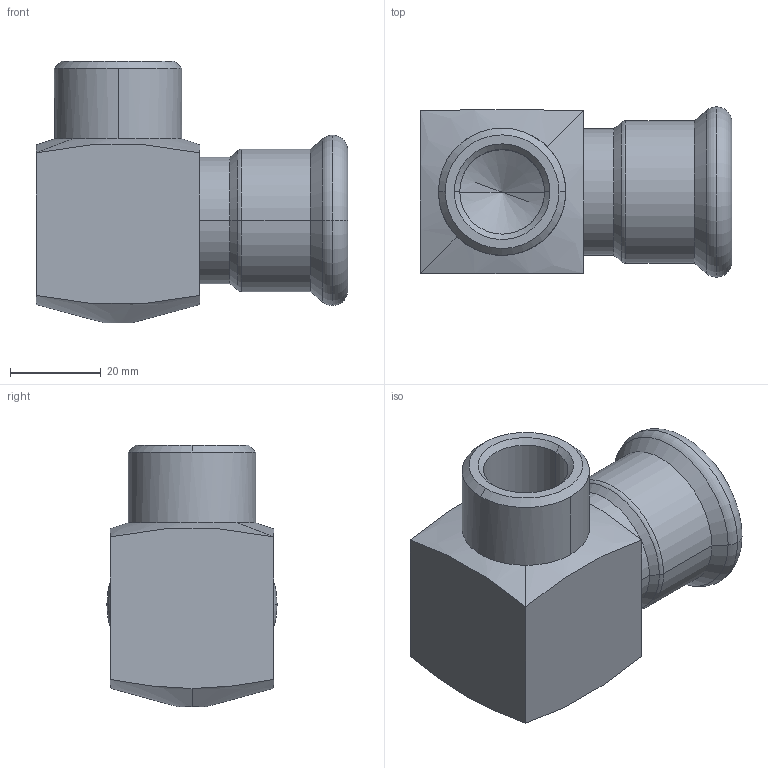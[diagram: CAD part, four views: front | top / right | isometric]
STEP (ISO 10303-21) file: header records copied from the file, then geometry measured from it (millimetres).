
FILE_DESCRIPTION(('CoCreate Modeling STEP Export'),'2;1');
FILE_NAME('C1409 28 Rp 1-2.stp','2014-11-07T16:49:59',(''),(''),'CoCreate Modeling STEP processor for AP214 (Solid Model)','CoCreate Modeling 17.00A 17-Jun-2010 (C) Parametric Technology GmbH','');
FILE_SCHEMA(('AUTOMOTIVE_DESIGN { 1 0 10303 214 1 1 1 1 }'));
Length unit declared in the file: millimetre
Products named in the file (2): C1409-28-rp-1-2
Assembly tree (1 placements, depth 2):
  C1409-28-rp-1-2
    C1409-28-rp-1-2
Bounding box: 68.5 x 37.45 x 57.5 mm (x, y, z)
Volume: 44847.9 mm3; surface area: 18927.5 mm2
Topology: 1 solids, 1 shells, 59 faces, 141 edges, 87 vertices
Faces by surface type: cylinder 22, cone 20, plane 9, torus 6, bspline 2
Entity records: 3492 total; most frequent: CARTESIAN_POINT 2304, ORIENTED_EDGE 278, DIRECTION 168, EDGE_CURVE 139, VERTEX_POINT 87, EDGE_LOOP 66, AXIS2_PLACEMENT_3D 64, FACE_OUTER_BOUND 59
